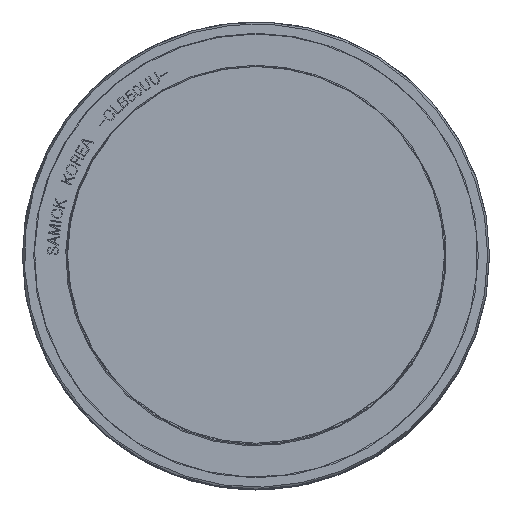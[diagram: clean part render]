
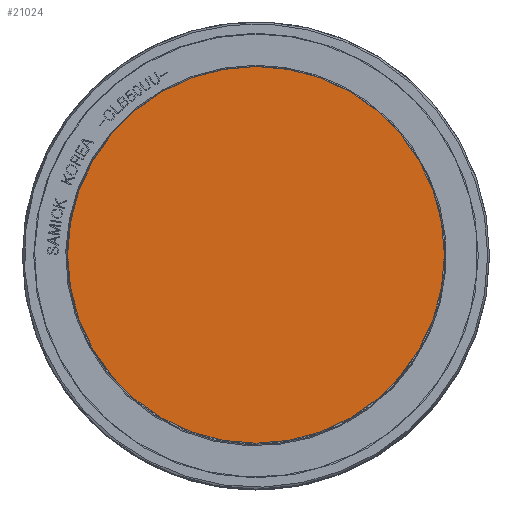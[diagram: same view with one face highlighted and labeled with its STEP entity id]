
A CAD part, top view. The second image highlights one B-rep face of the part: STEP entity #21024.
In plain terms, the highlighted planar face has unit normal (0, 0, 1).
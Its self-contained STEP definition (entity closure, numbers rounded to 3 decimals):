
#759=PLANE('',#22307);
#2711=FACE_OUTER_BOUND('',#3879,.T.);
#3879=EDGE_LOOP('',(#13897,#13898));
#5123=CIRCLE('',#22299,25.);
#5124=CIRCLE('',#22300,25.);
#8453=VERTEX_POINT('',#26995);
#8454=VERTEX_POINT('',#26996);
#10613=EDGE_CURVE('',#8453,#8454,#5123,.T.);
#10614=EDGE_CURVE('',#8454,#8453,#5124,.T.);
#13897=ORIENTED_EDGE('',*,*,#10613,.T.);
#13898=ORIENTED_EDGE('',*,*,#10614,.T.);
#21024=ADVANCED_FACE('',(#2711),#759,.T.);
#22299=AXIS2_PLACEMENT_3D('',#26997,#23349,#23350);
#22300=AXIS2_PLACEMENT_3D('',#26998,#23351,#23352);
#22307=AXIS2_PLACEMENT_3D('',#27011,#23367,#23368);
#23349=DIRECTION('center_axis',(0.,0.,
1.));
#23350=DIRECTION('ref_axis',(0.814,-0.581,0.));
#23351=DIRECTION('center_axis',(0.,0.,
1.));
#23352=DIRECTION('ref_axis',(0.814,-0.581,0.));
#23367=DIRECTION('center_axis',(0.,0.,1.));
#23368=DIRECTION('ref_axis',(1.,0.,0.));
#26995=CARTESIAN_POINT('',(25.,0.,85.));
#26996=CARTESIAN_POINT('',(-25.,0.,85.));
#26997=CARTESIAN_POINT('Origin',(0.,0.,
85.));
#26998=CARTESIAN_POINT('Origin',(0.,0.,
85.));
#27011=CARTESIAN_POINT('Origin',(0.,-25.01,85.));
